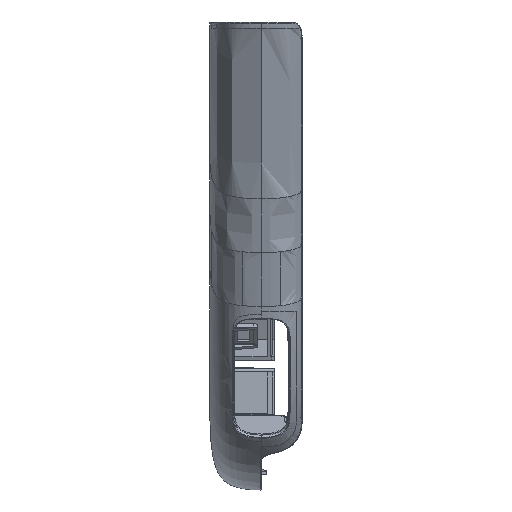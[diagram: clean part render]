
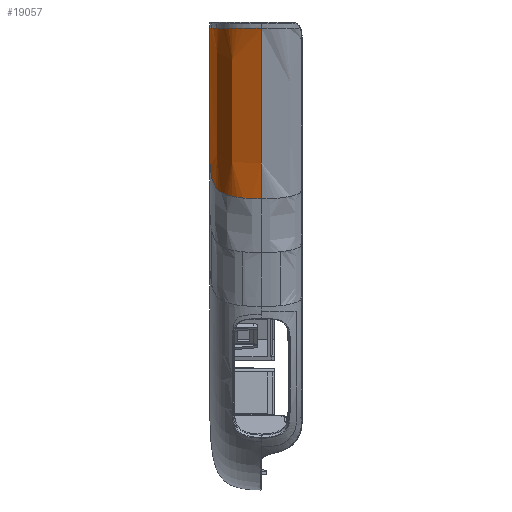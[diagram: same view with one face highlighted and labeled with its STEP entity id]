
A CAD part, front view. The second image highlights one B-rep face of the part: STEP entity #19057.
In plain terms, the highlighted face is a extrusion surface.
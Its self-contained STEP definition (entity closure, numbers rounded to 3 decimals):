
#16=CARTESIAN_POINT('',(-271.275,-123.322,754.921));
#94=CARTESIAN_POINT('',(-271.17,-123.323,706.72));
#155=CARTESIAN_POINT('',(-271.17,-123.323,706.72));
#156=CARTESIAN_POINT('',(-271.202,-123.33,711.849));
#157=CARTESIAN_POINT('',(-271.247,-123.318,722.267));
#158=CARTESIAN_POINT('',(-271.272,-123.326,738.331));
#159=CARTESIAN_POINT('',(-271.275,-123.316,749.344));
#160=CARTESIAN_POINT('',(-271.275,-123.322,754.921));
#162=DIRECTION('',(0.,-0.337,0.941));
#163=VECTOR('',#162,48.494);
#164=CARTESIAN_POINT('',(-253.275,-160.081,709.267));
#165=LINE('',#164,#163);
#166=DIRECTION('',(0.,-0.337,0.941));
#167=VECTOR('',#166,1.516);
#168=CARTESIAN_POINT('',(-253.275,-159.57,707.84));
#169=LINE('',#168,#167);
#170=DIRECTION('',(0.,-0.337,0.941));
#171=VECTOR('',#170,13.277);
#172=CARTESIAN_POINT('',(-253.275,-155.094,695.341));
#173=LINE('',#172,#171);
#174=CARTESIAN_POINT('',(-253.275,-155.094,695.341));
#175=CARTESIAN_POINT('',(-257.681,-155.094,695.341));
#176=CARTESIAN_POINT('',(-264.29,-153.542,695.897));
#177=CARTESIAN_POINT('',(-269.995,-145.218,698.878));
#178=CARTESIAN_POINT('',(-270.971,-133.381,703.117));
#179=CARTESIAN_POINT('',(-271.17,-123.323,706.72));
#181=CARTESIAN_POINT('',(-270.777,-151.528,754.921));
#182=CARTESIAN_POINT('',(-270.84,-150.354,754.921));
#183=CARTESIAN_POINT('',(-270.966,-148.006,754.92));
#184=CARTESIAN_POINT('',(-271.087,-144.481,754.919));
#185=CARTESIAN_POINT('',(-271.164,-140.955,754.919));
#186=CARTESIAN_POINT('',(-271.218,-137.429,754.919));
#187=CARTESIAN_POINT('',(-271.248,-133.902,754.92));
#188=CARTESIAN_POINT('',(-271.272,-129.2,754.921));
#189=CARTESIAN_POINT('',(-271.274,-125.673,754.921));
#190=CARTESIAN_POINT('',(-271.275,-123.322,754.921));
#192=CARTESIAN_POINT('',(-268.767,-165.326,754.921));
#193=CARTESIAN_POINT('',(-268.92,-164.805,754.921));
#194=CARTESIAN_POINT('',(-269.203,-163.743,754.921));
#195=CARTESIAN_POINT('',(-269.561,-162.095,754.921));
#196=CARTESIAN_POINT('',(-269.859,-160.422,754.92));
#197=CARTESIAN_POINT('',(-270.029,-159.269,754.92));
#198=CARTESIAN_POINT('',(-270.186,-158.105,754.92));
#199=CARTESIAN_POINT('',(-270.32,-156.991,754.921));
#200=CARTESIAN_POINT('',(-270.44,-155.803,754.921));
#201=CARTESIAN_POINT('',(-270.527,-154.864,754.921));
#202=CARTESIAN_POINT('',(-270.6,-154.012,754.921));
#203=CARTESIAN_POINT('',(-270.69,-152.812,754.921));
#204=CARTESIAN_POINT('',(-270.75,-151.956,754.921));
#205=CARTESIAN_POINT('',(-270.777,-151.528,754.921));
#207=CARTESIAN_POINT('',(-253.275,-176.432,754.921));
#208=CARTESIAN_POINT('',(-253.7,-176.432,754.922));
#209=CARTESIAN_POINT('',(-254.551,-176.415,754.922));
#210=CARTESIAN_POINT('',(-255.824,-176.332,754.921));
#211=CARTESIAN_POINT('',(-257.094,-176.183,754.921));
#212=CARTESIAN_POINT('',(-258.281,-175.969,754.921));
#213=CARTESIAN_POINT('',(-259.111,-175.763,754.921));
#214=CARTESIAN_POINT('',(-259.932,-175.523,754.921));
#215=CARTESIAN_POINT('',(-260.812,-175.219,754.921));
#216=CARTESIAN_POINT('',(-261.986,-174.684,754.921));
#217=CARTESIAN_POINT('',(-263.102,-174.027,754.921));
#218=CARTESIAN_POINT('',(-264.14,-173.244,754.922));
#219=CARTESIAN_POINT('',(-265.088,-172.345,754.922));
#220=CARTESIAN_POINT('',(-265.859,-171.428,754.922));
#221=CARTESIAN_POINT('',(-266.364,-170.709,754.921));
#222=CARTESIAN_POINT('',(-266.836,-169.965,754.921));
#223=CARTESIAN_POINT('',(-267.285,-169.16,754.921));
#224=CARTESIAN_POINT('',(-267.662,-168.354,754.921));
#225=CARTESIAN_POINT('',(-268.013,-167.533,754.921));
#226=CARTESIAN_POINT('',(-268.256,-166.899,754.921));
#227=CARTESIAN_POINT('',(-268.547,-166.045,754.921));
#228=CARTESIAN_POINT('',(-268.682,-165.613,754.921));
#229=CARTESIAN_POINT('',(-268.767,-165.326,754.921));
#16000=VERTEX_POINT('',#16);
#16007=VERTEX_POINT('',#94);
#16016=CARTESIAN_POINT('',(-253.275,-155.094,
695.341));
#16017=VERTEX_POINT('',#16016);
#16018=VERTEX_POINT('',#181);
#16019=VERTEX_POINT('',#207);
#16020=VERTEX_POINT('',#229);
#16450=CARTESIAN_POINT('',(-253.275,-159.57,
707.84));
#16451=VERTEX_POINT('',#16450);
#16452=CARTESIAN_POINT('',(-253.275,-160.081,
709.267));
#16453=VERTEX_POINT('',#16452);
#19029=CARTESIAN_POINT('',(-271.275,-128.915,
772.342));
#19030=CARTESIAN_POINT('',(-271.275,-129.106,
772.274));
#19031=CARTESIAN_POINT('',(-271.275,-148.263,
765.413));
#19032=CARTESIAN_POINT('',(-271.028,-165.177,
759.356));
#19033=CARTESIAN_POINT('',(-264.291,-175.008,
755.834));
#19034=CARTESIAN_POINT('',(-257.527,-176.596,
755.266));
#19035=CARTESIAN_POINT('',(-252.863,-176.558,
755.279));
#19036=CARTESIAN_POINT('',(-252.654,-176.555,
755.281));
#19038=DIRECTION('',(0.,0.337,-0.941));
#19039=VECTOR('',#19038,1.);
#19040=SURFACE_OF_LINEAR_EXTRUSION('',#19037,#19039);
#19042=ORIENTED_EDGE('',*,*,#19041,.F.);
#19044=ORIENTED_EDGE('',*,*,#19043,.F.);
#19046=ORIENTED_EDGE('',*,*,#19045,.F.);
#19047=ORIENTED_EDGE('',*,*,#18999,.T.);
#19048=ORIENTED_EDGE('',*,*,#19022,.T.);
#19050=ORIENTED_EDGE('',*,*,#19049,.F.);
#19052=ORIENTED_EDGE('',*,*,#19051,.F.);
#19054=ORIENTED_EDGE('',*,*,#19053,.F.);
#19055=EDGE_LOOP('',(#19042,#19044,#19046,#19047,#19048,#19050,#19052,#19054));
#19056=FACE_OUTER_BOUND('',#19055,.F.);
#19057=ADVANCED_FACE('',(#19056),#19040,.F.);
#161=B_SPLINE_CURVE_WITH_KNOTS('',3,(#155,#156,#157,#158,#159,#160),
.UNSPECIFIED.,.F.,.F.,(4,1,1,4),(0.,0.333,0.667,1.),
.UNSPECIFIED.);
#180=B_SPLINE_CURVE_WITH_KNOTS('',3,(#174,#175,#176,#177,#178,#179),
.UNSPECIFIED.,.F.,.F.,(4,1,1,4),(0.,0.295,0.59,1.),
.UNSPECIFIED.);
#191=B_SPLINE_CURVE_WITH_KNOTS('',3,(#181,#182,#183,#184,#185,#186,#187,#188,
#189,#190),.UNSPECIFIED.,.F.,.F.,(4,1,1,1,1,1,1,4),(0.,0.125,
0.25,0.375,0.5,0.625,
0.75,1.),.UNSPECIFIED.);
#206=B_SPLINE_CURVE_WITH_KNOTS('',3,(#192,#193,#194,#195,#196,#197,#198,#199,
#200,#201,#202,#203,#204,#205),.UNSPECIFIED.,.F.,.F.,(4,1,1,1,1,1,1,1,1,1,1,4),(
0.,0.125,0.25,0.375,0.495,0.5,0.625,0.733,
0.75,0.822,0.911,1.),.UNSPECIFIED.);
#230=B_SPLINE_CURVE_WITH_KNOTS('',3,(#207,#208,#209,#210,#211,#212,#213,#214,
#215,#216,#217,#218,#219,#220,#221,#222,#223,#224,#225,#226,#227,#228,#229),
.UNSPECIFIED.,.F.,.F.,(4,1,1,1,1,1,1,1,1,1,1,1,1,1,1,1,1,1,1,1,4),(0.,
0.063,0.125,0.188,0.25,
0.302,0.313,0.375,0.438,
0.5,0.563,0.625,0.688,
0.734,0.75,0.813,0.864,
0.875,0.938,0.959,1.),.UNSPECIFIED.);
#18999=EDGE_CURVE('',#16017,#16007,#180,.T.);
#19022=EDGE_CURVE('',#16007,#16000,#161,.T.);
#19037=B_SPLINE_CURVE_WITH_KNOTS('',3,(#19029,#19030,#19031,#19032,#19033,
#19034,#19035,#19036),.UNSPECIFIED.,.F.,.F.,(4,1,1,1,1,4),(0.,
0.005,0.497,0.743,0.989,1.),
.UNSPECIFIED.);
#19041=EDGE_CURVE('',#16453,#16019,#165,.T.);
#19043=EDGE_CURVE('',#16451,#16453,#169,.T.);
#19045=EDGE_CURVE('',#16017,#16451,#173,.T.);
#19049=EDGE_CURVE('',#16018,#16000,#191,.T.);
#19051=EDGE_CURVE('',#16020,#16018,#206,.T.);
#19053=EDGE_CURVE('',#16019,#16020,#230,.T.);
